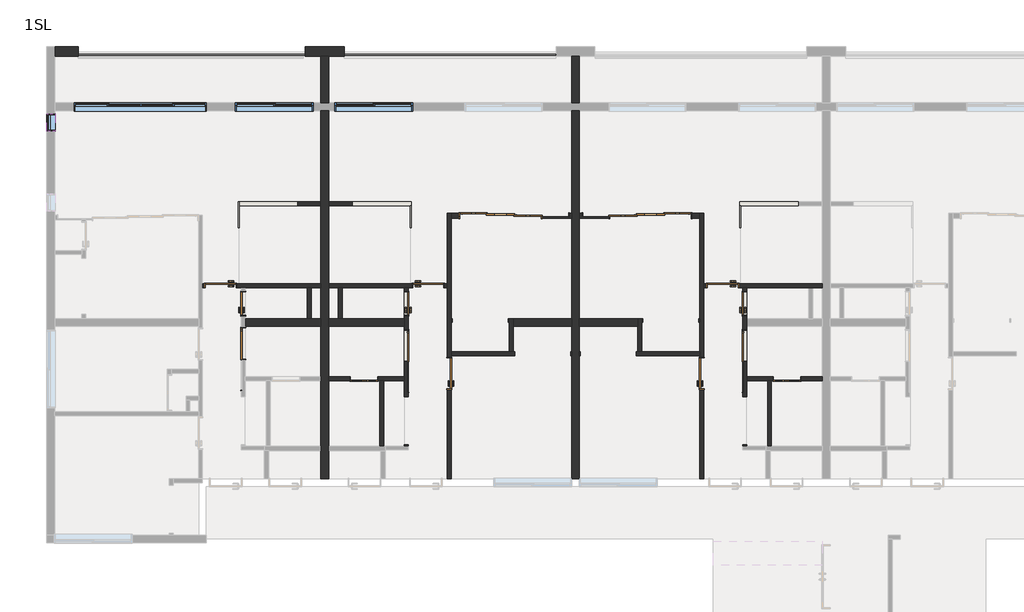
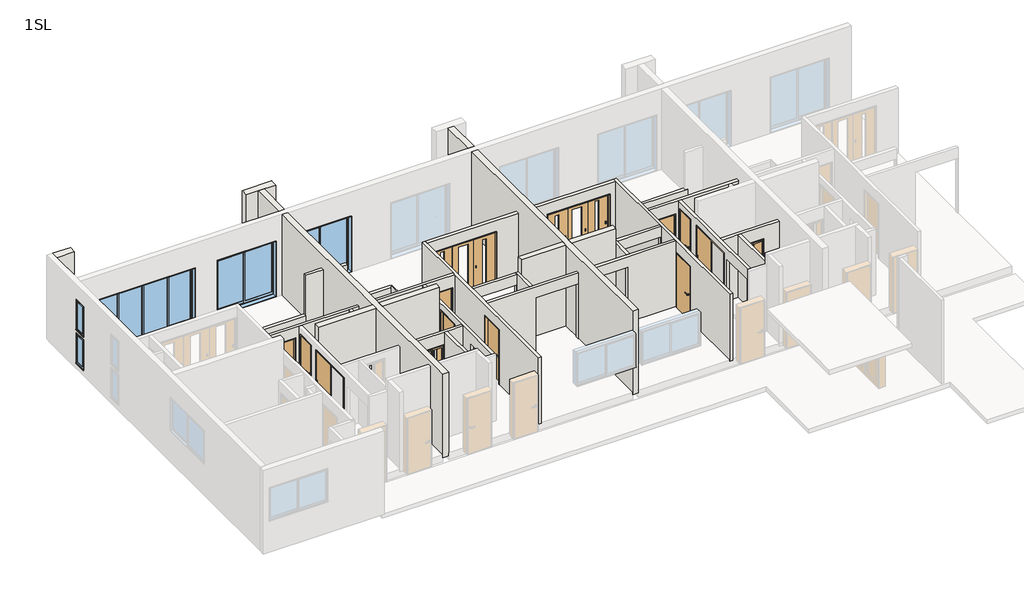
# One storey, part 2 of 3: 35 walls, 15 doors, 5 windows, 2 plates.
"""IFC4 building model written with IfcOpenShell, lengths in millimetres."""

from ifc_helpers import new_model, si_unit, frame, origin, place, context, project, spatial, polyline, outline, extrude, faceted_brep, transform, mapped, element, save
from components import door_a3db7c72, door_c7dcdbed, door_8f2de950, door_3b96e66a, door_6eb1cc95, door_aabc7979, door_3f60c47c, door_12b42705, door_31a51f76, door_d265da5f, system_panel_37aab131, system_panel_5692cc67, window_4c3e1407, window_a2a98c4b, window_ec430ee0, window_7edd47ae, w0450_h1100_93ba837a

model = new_model("IFC4")

# Units and contexts
model_context = context("Model", 3, world=origin())
ifc_project = project(units=[si_unit("LENGTHUNIT", "METRE", prefix="MILLI")], contexts=[model_context])

# Site, building, storey
site = spatial("IfcSite", under=ifc_project)
building = spatial("IfcBuilding", under=site)
storey = spatial("IfcBuildingStorey", under=building, Name="1SL", Elevation=1000.0)

# Doors
placement = place(None, origin())
door_shape = door_a3db7c72(model_context)
element("IfcDoor", 1, ObjectType="木製_片開き_フラッシュ : WD-2 w600h2000", at=placement, inside=storey, context=model_context, shape_type="MappedRepresentation", body=[
    mapped(door_shape, transform((-5645.6194095, 3696.254513, 1210.0), x_axis=(0.0, 1.0, 0.0), y_axis=(-1.0, 0.0, 0.0), z_axis=(0.0, 0.0, 1.0))),
])
element("IfcDoor", 2, ObjectType="木製_片開き_フラッシュ : WD-2 w600h2000", at=placement, inside=storey, context=model_context, shape_type="MappedRepresentation", body=[
    mapped(door_shape, transform((7254.3805905, 3696.254513, 1210.0), x_axis=(0.0, 1.0, 0.0), y_axis=(-1.0, 0.0, 0.0), z_axis=(0.0, 0.0, 1.0))),
])
door_2_shape = door_c7dcdbed(model_context)
element("IfcDoor", 3, ObjectType="木製_片開き_フラッシュ : WD-2 w600h2000", at=placement, inside=storey, context=model_context, shape_type="MappedRepresentation", body=[
    mapped(door_2_shape, transform((-1445.6194095, 3696.254513, 1210.0), x_axis=(0.0, 1.0, 0.0), y_axis=(-1.0, 0.0, 0.0), z_axis=(0.0, 0.0, 1.0))),
])
door_3_shape = door_8f2de950(model_context)
element("IfcDoor", 4, ObjectType="木製_片開き_フラッシュ : WD-1\u3000w800h2000", at=placement, inside=storey, context=model_context, shape_type="MappedRepresentation", body=[
    mapped(door_3_shape, transform((-6225.6194095, 4160.2598658, 1060.0), x_axis=(-1.0, 0.0, 0.0), y_axis=(0.0, -1.0, 0.0), z_axis=(0.0, 0.0, 1.0))),
])
element("IfcDoor", 5, ObjectType="木製_片開き_フラッシュ : WD-1\u3000w800h2000", at=placement, inside=storey, context=model_context, shape_type="MappedRepresentation", body=[
    mapped(door_3_shape, transform((-345.6194095, 1900.2598658, 1060.0), x_axis=(0.0, 1.0, 0.0), y_axis=(-1.0, 0.0, 0.0), z_axis=(0.0, 0.0, 1.0))),
])
element("IfcDoor", 6, ObjectType="木製_片開き_フラッシュ : WD-1\u3000w800h2000", at=placement, inside=storey, context=model_context, shape_type="MappedRepresentation", body=[
    mapped(door_3_shape, transform((6694.3805905, 4160.2598658, 1000.0), x_axis=(-1.0, 0.0, 0.0), y_axis=(0.0, -1.0, 0.0), z_axis=(0.0, 0.0, 1.0))),
])
door_4_shape = door_3b96e66a(model_context)
element("IfcDoor", 7, ObjectType="木製_片開き_フラッシュ : WD-1\u3000w800h2000", at=placement, inside=storey, context=model_context, shape_type="MappedRepresentation", body=[
    mapped(door_4_shape, transform((-885.6194095, 4160.2598658, 1000.0), x_axis=(1.0, 0.0, 0.0), y_axis=(0.0, 1.0, 0.0), z_axis=(0.0, 0.0, 1.0))),
])
element("IfcDoor", 8, ObjectType="木製_片開き_フラッシュ : WD-1\u3000w800h2000", at=placement, inside=storey, context=model_context, shape_type="MappedRepresentation", body=[
    mapped(door_4_shape, transform((6154.3805905, 1900.2598658, 1060.0), x_axis=(0.0, 1.0, 0.0), y_axis=(-1.0, 0.0, 0.0), z_axis=(0.0, 0.0, 1.0))),
])
door_5_shape = door_6eb1cc95(model_context)
element("IfcDoor", 9, ObjectType="木製_折戸2枚_フラッシュ(UB) : UB-1 w600h2000", at=placement, inside=storey, context=model_context, shape_type="MappedRepresentation", body=[
    mapped(door_5_shape, transform((8344.3805905, 1760.2598658, 1000.0), x_axis=(1.0, 0.0, 0.0), y_axis=(0.0, 1.0, 0.0), z_axis=(0.0, 0.0, 1.0))),
])
door_6_shape = door_aabc7979(model_context)
element("IfcDoor", 10, ObjectType="木製_折戸2枚_フラッシュ(UB) : UB-1 w600h2000", at=placement, inside=storey, context=model_context, shape_type="MappedRepresentation", body=[
    mapped(door_6_shape, transform((-2535.6194095, 1760.2598658, 1000.0), x_axis=(-1.0, 0.0, 0.0), y_axis=(0.0, -1.0, 0.0), z_axis=(0.0, 0.0, 1.0))),
])
door_7_shape = door_3f60c47c(model_context)
element("IfcDoor", 11, ObjectType="木製_片引き_フラッシュ : WD-4 w800h2000", at=placement, inside=storey, context=model_context, shape_type="MappedRepresentation", body=[
    mapped(door_7_shape, transform((-1445.6194095, 2610.719009, 1210.0), x_axis=(0.0, -1.0, 0.0), y_axis=(1.0, 0.0, 0.0), z_axis=(0.0, 0.0, 1.0))),
])
door_8_shape = door_12b42705(model_context)
element("IfcDoor", 12, ObjectType="木製_片引き_フラッシュ : WD-4 w800h2000", at=placement, inside=storey, context=model_context, shape_type="MappedRepresentation", body=[
    mapped(door_8_shape, transform((-5645.6194095, 2664.7243619, 1210.0), x_axis=(0.0, -1.0, 0.0), y_axis=(1.0, 0.0, 0.0), z_axis=(0.0, 0.0, 1.0))),
])
element("IfcDoor", 13, ObjectType="木製_片引き_フラッシュ : WD-4 w800h2000", at=placement, inside=storey, context=model_context, shape_type="MappedRepresentation", body=[
    mapped(door_8_shape, transform((7254.3805905, 2610.719009, 1210.0), x_axis=(0.0, -1.0, 0.0), y_axis=(1.0, 0.0, 0.0), z_axis=(0.0, 0.0, 1.0))),
])
door_9_shape = door_31a51f76(model_context)
element("IfcDoor", 14, ObjectType="木製_片引き3枚_フラッシュ2 : WD-9 w2100h2000", at=placement, inside=storey, context=model_context, shape_type="MappedRepresentation", body=[
    mapped(door_9_shape, transform((979.9160944, 5960.2598658, 1060.0), x_axis=(1.0, 0.0, 0.0), y_axis=(0.0, 1.0, 0.0), z_axis=(0.0, 0.0, 1.0))),
])
door_10_shape = door_d265da5f(model_context)
element("IfcDoor", 15, ObjectType="木製_片引き3枚_フラッシュ2 : WD-9 w2100h2000", at=placement, inside=storey, context=model_context, shape_type="MappedRepresentation", body=[
    mapped(door_10_shape, transform((4828.8450865, 5960.2598658, 1060.0), x_axis=(-1.0, 0.0, 0.0), y_axis=(0.0, -1.0, 0.0), z_axis=(0.0, 0.0, 1.0))),
])

# Plates
system_panel_shape = system_panel_37aab131(model_context)
element("IfcPlate", 16, ObjectType="システム パネル : System Panel", at=placement, inside=storey, context=model_context, shape_type="MappedRepresentation", body=[
    mapped(system_panel_shape, transform((-320.6194095, 10097.7598658, 1000.0), x_axis=(-1.0, 0.0, 0.0), y_axis=(0.0, -1.0, 0.0), z_axis=(0.0, 0.0, 1.0))),
])
system_panel_2_shape = system_panel_5692cc67(model_context)
element("IfcPlate", 17, ObjectType="システム パネル : System Panel", at=placement, inside=storey, context=model_context, shape_type="MappedRepresentation", body=[
    mapped(system_panel_2_shape, transform((-6970.6194095, 10097.7598658, 1000.0), x_axis=(1.0, 0.0, 0.0), y_axis=(0.0, 1.0, 0.0), z_axis=(0.0, 0.0, 1.0))),
])

# Walls
element("IfcWall", 18, ObjectType="(F)30", at=placement, inside=storey, context=model_context, shape_type="Brep", body=[
    faceted_brep([(-5775.1194095, 6315.254513, 1113.4303939), (-5775.1194095, 5645.254513, 1113.4303939), (-5775.1194095, 5645.254513, 2060.0), (-5775.1194095, 6315.254513, 2060.0), (-5745.1194095, 6315.254513, 1113.4303939), (-5745.1194095, 6315.254513, 2060.0), (-5745.1194095, 6215.254513, 2060.0), (-5745.1194095, 5645.254513, 2060.0), (-5745.1194095, 5645.254513, 1113.4303939)], [[[0, 1, 2, 3]], [[4, 5, 6, 7, 8]], [[1, 0, 4, 8]], [[2, 1, 8, 7]], [[3, 2, 7, 6, 5]], [[0, 3, 5, 4]]]),
])
element("IfcWall", 19, ObjectType="(F)30", at=placement, inside=storey, context=model_context, shape_type="Brep", body=[
    faceted_brep([(-1346.1194095, 6215.254513, 1060.0), (-1346.1194095, 5645.254513, 1060.0), (-1346.1194095, 5645.254513, 2120.0), (-1346.1194095, 6215.254513, 2120.0), (-1316.1194095, 6215.254513, 1060.0), (-1316.1194095, 6215.254513, 2060.0), (-1316.1194095, 6215.254513, 2120.0), (-1316.1194095, 5645.254513, 2120.0), (-1316.1194095, 5645.254513, 1060.0)], [[[0, 1, 2, 3]], [[4, 5, 6, 7, 8]], [[1, 0, 4, 8]], [[2, 1, 8, 7]], [[3, 2, 7, 6]], [[0, 3, 6, 5, 4]]]),
])
element("IfcWall", 20, ObjectType="(F)30", at=placement, inside=storey, context=model_context, shape_type="Brep", body=[
    faceted_brep([(7124.8805905, 6215.254513, 1060.0), (7124.8805905, 5645.254513, 1060.0), (7124.8805905, 5645.254513, 2120.0), (7124.8805905, 6215.254513, 2120.0), (7124.8805905, 6215.254513, 2060.0), (7154.8805905, 6215.254513, 1060.0), (7154.8805905, 6215.254513, 2120.0), (7154.8805905, 5645.254513, 2120.0), (7154.8805905, 5645.254513, 1060.0)], [[[0, 1, 2, 3, 4]], [[5, 6, 7, 8]], [[1, 0, 5, 8]], [[2, 1, 8, 7]], [[3, 2, 7, 6]], [[0, 4, 3, 6, 5]]]),
])
element("IfcWall", 21, ObjectType="(L)100", at=placement, inside=storey, context=model_context, shape_type="Brep", body=[
    faceted_brep([(-4245.6194095, 6315.254513, 1000.0), (-5745.1194095, 6315.254513, 1000.0), (-5745.1194095, 6315.254513, 1113.4303939), (-5745.1194095, 6315.254513, 2060.0), (-4245.6194095, 6315.254513, 2060.0), (-4245.6194095, 6315.254513, 1100.0), (-4245.6194095, 6215.254513, 1000.0), (-4245.6194095, 6215.254513, 1100.0), (-4245.6194095, 6215.254513, 2060.0), (-5745.1194095, 6215.254513, 2060.0), (-5745.1194095, 6215.254513, 1000.0)], [[[0, 1, 2, 3, 4, 5]], [[6, 7, 8, 9, 10]], [[1, 0, 6, 10]], [[4, 3, 9, 8]], [[0, 5, 4, 8, 7, 6]], [[3, 2, 1, 10, 9]]]),
])
element("IfcWall", 22, ObjectType="(L)100", at=placement, inside=storey, context=model_context, shape_type="SweptSolid", body=[
    extrude(outline(polyline([(-3995.6194095, 3310.2598658), (-3995.6194095, 4110.2598658), (-3895.6194095, 4110.2598658), (-3895.6194095, 3310.2598658), (-3995.6194095, 3310.2598658)])), frame((0.0, 0.0, 1000.0), z_axis=(0.0, 0.0, 1.0), x_axis=(1.0, 0.0, 0.0)), (0.0, 0.0, 1.0), 2460.0),
])
element("IfcWall", 23, ObjectType="(L)100", at=placement, inside=storey, context=model_context, shape_type="Brep", body=[
    faceted_brep([(-3645.6194095, 4210.2598658, 1060.0), (-5805.6194095, 4210.2598658, 1060.0), (-5805.6194095, 4210.2598658, 3080.0), (-6645.6194095, 4210.2598658, 3080.0), (-6645.6194095, 4210.2598658, 1060.0), (-6695.6194095, 4210.2598658, 1060.0), (-6695.6194095, 4210.2598658, 3460.0), (-3645.6194095, 4210.2598658, 3460.0), (-5805.6194095, 4110.2598658, 3080.0), (-5805.6194095, 4110.2598658, 1060.0), (-5695.6194095, 4110.2598658, 1060.0), (-5595.6194095, 4110.2598658, 1060.0), (-3645.6194095, 4110.2598658, 1060.0), (-3645.6194095, 4110.2598658, 3460.0), (-3895.6194095, 4110.2598658, 3460.0), (-3995.6194095, 4110.2598658, 3460.0), (-5595.6194095, 4110.2598658, 3460.0), (-5695.6194095, 4110.2598658, 3460.0), (-6695.6194095, 4110.2598658, 3460.0), (-6695.6194095, 4110.2598658, 1060.0), (-6645.6194095, 4110.2598658, 1060.0), (-6645.6194095, 4110.2598658, 3080.0)], [[[0, 1, 2, 3, 4, 5, 6, 7]], [[8, 9, 10, 11, 12, 13, 14, 15, 16, 17, 18, 19, 20, 21]], [[12, 11, 10, 9, 1, 0]], [[20, 19, 5, 4]], [[7, 6, 18, 17, 16, 15, 14, 13]], [[6, 5, 19, 18]], [[0, 7, 13, 12]], [[4, 3, 21, 20]], [[2, 1, 9, 8]], [[3, 2, 8, 21]]]),
])
element("IfcWall", 24, ObjectType="(L)100", at=placement, inside=storey, context=model_context, shape_type="Brep", body=[
    faceted_brep([(-395.6194095, 1480.2598658, 3080.0), (-395.6194095, 1480.2598658, 1060.0), (-395.6194095, -809.7401342, 1060.0), (-395.6194095, -809.7401342, 3460.0), (-395.6194095, 4110.2598658, 3460.0), (-395.6194095, 4210.2598658, 3460.0), (-395.6194095, 6022.7598658, 3460.0), (-395.6194095, 6022.7598658, 1060.0), (-395.6194095, 2320.2598658, 1060.0), (-395.6194095, 2320.2598658, 3080.0), (-295.6194095, -809.7401342, 1060.0), (-295.6194095, 1480.2598658, 1060.0), (-295.6194095, 1480.2598658, 3080.0), (-295.6194095, 2320.2598658, 3080.0), (-295.6194095, 2320.2598658, 1060.0), (-295.6194095, 2360.2598658, 1060.0), (-295.6194095, 2460.2598658, 1060.0), (-295.6194095, 5897.7598658, 1060.0), (-295.6194095, 6022.7598658, 1060.0), (-295.6194095, 6022.7598658, 3460.0), (-295.6194095, 5897.7598658, 3460.0), (-295.6194095, 3310.2598658, 3460.0), (-295.6194095, 3210.2598658, 3460.0), (-295.6194095, 2460.2598658, 3460.0), (-295.6194095, 2360.2598658, 3460.0), (-295.6194095, -809.7401342, 3460.0)], [[[0, 1, 2, 3, 4, 5, 6, 7, 8, 9]], [[10, 11, 12, 13, 14, 15, 16, 17, 18, 19, 20, 21, 22, 23, 24, 25]], [[2, 1, 11, 10]], [[8, 7, 18, 17, 16, 15, 14]], [[6, 5, 4, 3, 25, 24, 23, 22, 21, 20, 19]], [[7, 6, 19, 18]], [[3, 2, 10, 25]], [[14, 13, 9, 8]], [[12, 11, 1, 0]], [[13, 12, 0, 9]]]),
])
element("IfcWall", 25, ObjectType="(L)100", at=placement, inside=storey, context=model_context, shape_type="Brep", body=[
    faceted_brep([(2804.3805905, 2460.2598658, 1060.0), (2784.3805905, 2460.2598658, 1060.0), (2784.3805905, 2460.2598658, 3080.0), (1344.3805905, 2460.2598658, 3080.0), (1344.3805905, 2460.2598658, 1060.0), (-295.6194095, 2460.2598658, 1060.0), (-295.6194095, 2460.2598658, 3460.0), (1204.3805905, 2460.2598658, 3460.0), (1304.3805905, 2460.2598658, 3460.0), (2804.3805905, 2460.2598658, 3460.0), (2784.3805905, 2360.2598658, 3080.0), (2784.3805905, 2360.2598658, 1060.0), (2804.3805905, 2360.2598658, 1060.0), (2804.3805905, 2360.2598658, 3460.0), (-295.6194095, 2360.2598658, 3460.0), (-295.6194095, 2360.2598658, 1060.0), (1344.3805905, 2360.2598658, 1060.0), (1344.3805905, 2360.2598658, 3080.0)], [[[0, 1, 2, 3, 4, 5, 6, 7, 8, 9]], [[10, 11, 12, 13, 14, 15, 16, 17]], [[12, 11, 1, 0]], [[16, 15, 5, 4]], [[9, 8, 7, 6, 14, 13]], [[6, 5, 15, 14]], [[0, 9, 13, 12]], [[4, 3, 17, 16]], [[2, 1, 11, 10]], [[3, 2, 10, 17]]]),
])
element("IfcWall", 26, ObjectType="(L)100", at=placement, inside=storey, context=model_context, shape_type="Brep", body=[
    faceted_brep([(1204.3805905, 3310.2598658, 1000.0), (1204.3805905, 3210.2598658, 1000.0), (1204.3805905, 2460.2598658, 1000.0), (1204.3805905, 2460.2598658, 3460.0), (1204.3805905, 3210.2598658, 3460.0), (1204.3805905, 3310.2598658, 3460.0), (1304.3805905, 3310.2598658, 1000.0), (1304.3805905, 3310.2598658, 3460.0), (1304.3805905, 2460.2598658, 3460.0), (1304.3805905, 2460.2598658, 1000.0), (1304.3805905, 3110.2598658, 1000.0)], [[[0, 1, 2, 3, 4, 5]], [[6, 7, 8, 9, 10]], [[2, 1, 0, 6, 10, 9]], [[5, 4, 3, 8, 7]], [[0, 5, 7, 6]], [[3, 2, 9, 8]]]),
])
element("IfcWall", 27, ObjectType="(L)100", at=placement, inside=storey, context=model_context, shape_type="Brep", body=[
    faceted_brep([(-1395.6194095, 4110.2598658, 3460.0), (-1395.6194095, 30.2598658, 3460.0), (-1395.6194095, 30.2598658, 1060.0), (-1395.6194095, 60.2598658, 1060.0), (-1395.6194095, 60.2598658, 3080.0), (-1395.6194095, 1300.2598658, 3080.0), (-1395.6194095, 1300.2598658, 1060.0), (-1395.6194095, 4110.2598658, 1060.0), (-1395.6194095, 1396.254513, 3230.0), (-1395.6194095, 3036.254513, 3230.0), (-1395.6194095, 3036.254513, 1210.0), (-1395.6194095, 1396.254513, 1210.0), (-1395.6194095, 4016.254513, 3230.0), (-1395.6194095, 4016.254513, 1210.0), (-1395.6194095, 3376.254513, 1210.0), (-1395.6194095, 3376.254513, 3230.0), (-1495.6194095, 30.2598658, 3460.0), (-1495.6194095, 1710.2598658, 3460.0), (-1495.6194095, 1810.2598658, 3460.0), (-1495.6194095, 4110.2598658, 3460.0), (-1495.6194095, 4110.2598658, 1060.0), (-1495.6194095, 1300.2598658, 1060.0), (-1495.6194095, 1300.2598658, 3080.0), (-1495.6194095, 60.2598658, 3080.0), (-1495.6194095, 60.2598658, 1060.0), (-1495.6194095, 30.2598658, 1060.0), (-1495.6194095, 3036.254513, 3230.0), (-1495.6194095, 2196.254513, 3230.0), (-1495.6194095, 2196.254513, 1210.0), (-1495.6194095, 3036.254513, 1210.0), (-1495.6194095, 4016.254513, 1210.0), (-1495.6194095, 4016.254513, 3230.0), (-1495.6194095, 3376.254513, 3230.0), (-1495.6194095, 3376.254513, 1210.0), (-1425.6194095, 1396.254513, 3230.0), (-1425.6194095, 2196.254513, 3230.0), (-1425.6194095, 2196.254513, 1210.0), (-1425.6194095, 1396.254513, 1210.0)], [[[0, 1, 2, 3, 4, 5, 6, 7], [8, 9, 10, 11], [12, 13, 14, 15]], [[16, 17, 18, 19, 20, 21, 22, 23, 24, 25], [26, 27, 28, 29], [30, 31, 32, 33]], [[20, 7, 6, 21]], [[2, 25, 24, 3]], [[1, 0, 19, 18, 17, 16]], [[0, 7, 20, 19]], [[2, 1, 16, 25]], [[5, 22, 21, 6]], [[23, 4, 3, 24]], [[22, 5, 4, 23]], [[34, 35, 27, 26, 9, 8]], [[9, 26, 29, 10]], [[36, 37, 11, 10, 29, 28]], [[35, 36, 28, 27]], [[35, 34, 37, 36]], [[37, 34, 8, 11]], [[12, 31, 30, 13]], [[13, 30, 33, 14]], [[14, 33, 32, 15]], [[31, 12, 15, 32]]]),
])
element("IfcWall", 28, ObjectType="(L)100", at=placement, inside=storey, context=model_context, shape_type="SweptSolid", body=[
    extrude(outline(polyline([(-3445.6194095, 6315.254513), (-2845.6194095, 6315.254513), (-2845.6194095, 6215.254513), (-3445.6194095, 6215.254513), (-3445.6194095, 6315.254513)])), frame((0.0, 0.0, 1000.0), z_axis=(0.0, 0.0, 1.0), x_axis=(1.0, 0.0, 0.0)), (0.0, 0.0, 1.0), 2400.0),
])
element("IfcWall", 29, ObjectType="(L)100", at=placement, inside=storey, context=model_context, shape_type="Brep", body=[
    faceted_brep([(-2920.6194095, 6215.254513, 1060.0), (-1346.1194095, 6215.254513, 1060.0), (-1316.1194095, 6215.254513, 1060.0), (-1316.1194095, 6215.254513, 2060.0), (-2920.6194095, 6215.254513, 2060.0), (-2920.6194095, 6315.254513, 1060.0), (-2920.6194095, 6315.254513, 2060.0), (-1316.1194095, 6315.254513, 2060.0), (-1316.1194095, 6315.254513, 1060.0)], [[[0, 1, 2, 3, 4]], [[5, 6, 7, 8]], [[2, 1, 0, 5, 8]], [[4, 3, 7, 6]], [[0, 4, 6, 5]], [[3, 2, 8, 7]]]),
])
element("IfcWall", 30, ObjectType="(L)100", at=placement, inside=storey, context=model_context, shape_type="SweptSolid", body=[
    extrude(outline(polyline([(-3195.6194095, 3310.2598658), (-3195.6194095, 4110.2598658), (-3095.6194095, 4110.2598658), (-3095.6194095, 3310.2598658), (-3195.6194095, 3310.2598658)])), frame((0.0, 0.0, 1000.0), z_axis=(0.0, 0.0, 1.0), x_axis=(1.0, 0.0, 0.0)), (0.0, 0.0, 1.0), 2460.0),
])
element("IfcWall", 31, ObjectType="(L)100", at=placement, inside=storey, context=model_context, shape_type="Brep", body=[
    faceted_brep([(-2165.6194095, 1710.2598658, 3020.0), (-2165.6194095, 1710.2598658, 1000.0), (-2135.6194095, 1710.2598658, 1000.0), (-2035.6194095, 1710.2598658, 1000.0), (-1495.6194095, 1710.2598658, 1000.0), (-1495.6194095, 1710.2598658, 3460.0), (-2035.6194095, 1710.2598658, 3460.0), (-2135.6194095, 1710.2598658, 3460.0), (-3445.6194095, 1710.2598658, 3460.0), (-3445.6194095, 1710.2598658, 1000.0), (-2905.6194095, 1710.2598658, 1000.0), (-2905.6194095, 1710.2598658, 3020.0), (-1495.6194095, 1810.2598658, 1000.0), (-2165.6194095, 1810.2598658, 1000.0), (-2165.6194095, 1810.2598658, 3020.0), (-2905.6194095, 1810.2598658, 3020.0), (-2905.6194095, 1810.2598658, 1000.0), (-3445.6194095, 1810.2598658, 1000.0), (-3445.6194095, 1810.2598658, 3460.0), (-1495.6194095, 1810.2598658, 3460.0)], [[[0, 1, 2, 3, 4, 5, 6, 7, 8, 9, 10, 11]], [[12, 13, 14, 15, 16, 17, 18, 19]], [[4, 3, 2, 1, 13, 12]], [[10, 9, 17, 16]], [[8, 7, 6, 5, 19, 18]], [[5, 4, 12, 19]], [[9, 8, 18, 17]], [[16, 15, 11, 10]], [[14, 13, 1, 0]], [[15, 14, 0, 11]]]),
])
element("IfcWall", 32, ObjectType="(L)100", at=placement, inside=storey, context=model_context, shape_type="Brep", body=[
    faceted_brep([(-3445.6194095, 4110.2598658, 1000.0), (-3195.6194095, 4110.2598658, 1000.0), (-3095.6194095, 4110.2598658, 1000.0), (-1305.6194095, 4110.2598658, 1000.0), (-1305.6194095, 4110.2598658, 3020.0), (-465.6194095, 4110.2598658, 3020.0), (-465.6194095, 4110.2598658, 1000.0), (-395.6194095, 4110.2598658, 1000.0), (-395.6194095, 4110.2598658, 3460.0), (-1395.6194095, 4110.2598658, 3460.0), (-1495.6194095, 4110.2598658, 3460.0), (-3095.6194095, 4110.2598658, 3460.0), (-3195.6194095, 4110.2598658, 3460.0), (-3445.6194095, 4110.2598658, 3460.0), (-1305.6194095, 4210.2598658, 3020.0), (-1305.6194095, 4210.2598658, 1000.0), (-3445.6194095, 4210.2598658, 1000.0), (-3445.6194095, 4210.2598658, 3460.0), (-395.6194095, 4210.2598658, 3460.0), (-395.6194095, 4210.2598658, 1000.0), (-465.6194095, 4210.2598658, 1000.0), (-465.6194095, 4210.2598658, 3020.0)], [[[0, 1, 2, 3, 4, 5, 6, 7, 8, 9, 10, 11, 12, 13]], [[14, 15, 16, 17, 18, 19, 20, 21]], [[16, 15, 3, 2, 1, 0]], [[20, 19, 7, 6]], [[13, 12, 11, 10, 9, 8, 18, 17]], [[8, 7, 19, 18]], [[0, 13, 17, 16]], [[6, 5, 21, 20]], [[4, 3, 15, 14]], [[5, 4, 14, 21]]]),
])
element("IfcWall", 33, ObjectType="(L)100", at=placement, inside=storey, context=model_context, shape_type="Brep", body=[
    faceted_brep([(-4245.6194095, 6215.254513, 1100.0), (-3645.6194095, 6215.254513, 1100.0), (-3645.6194095, 6215.254513, 3500.0), (-4245.6194095, 6215.254513, 3500.0), (-4245.6194095, 6215.254513, 2060.0), (-4245.6194095, 6315.254513, 1100.0), (-4245.6194095, 6315.254513, 2060.0), (-4245.6194095, 6315.254513, 3500.0), (-3645.6194095, 6315.254513, 3500.0), (-3645.6194095, 6315.254513, 1100.0)], [[[0, 1, 2, 3, 4]], [[5, 6, 7, 8, 9]], [[1, 0, 5, 9]], [[3, 2, 8, 7]], [[0, 4, 3, 7, 6, 5]], [[2, 1, 9, 8]]]),
])
element("IfcWall", 34, ObjectType="(L)100", at=placement, inside=storey, context=model_context, shape_type="SweptSolid", body=[
    extrude(outline(polyline([(1000.0, -295.6194095), (1000.0, 1204.3805905), (3460.0, 1204.3805905), (3460.0, -295.6194095), (1000.0, -295.6194095)]), holes=[polyline([(1060.0, 1174.3805905), (1060.0, -265.6194095), (3080.0, -265.6194095), (3080.0, 1174.3805905), (1060.0, 1174.3805905)])]), frame((0.0, 3210.2598658, 0.0), z_axis=(0.0, 1.0, 0.0), x_axis=(0.0, 0.0, 1.0)), (0.0, 0.0, 1.0), 100.0),
])
element("IfcWall", 35, ObjectType="(L)100", at=placement, inside=storey, context=model_context, shape_type="SweptSolid", body=[
    extrude(outline(polyline([(-2135.6194095, 30.2598658), (-2135.6194095, 1710.2598658), (-2035.6194095, 1710.2598658), (-2035.6194095, 30.2598658), (-2135.6194095, 30.2598658)])), frame((0.0, 0.0, 1000.0), z_axis=(0.0, 0.0, 1.0), x_axis=(1.0, 0.0, 0.0)), (0.0, 0.0, 1.0), 2460.0),
])
element("IfcWall", 36, ObjectType="(L)100", at=placement, inside=storey, context=model_context, shape_type="Brep", body=[
    faceted_brep([(6104.3805905, 1480.2598658, 3080.0), (6104.3805905, 1480.2598658, 1060.0), (6104.3805905, -809.7401342, 1060.0), (6104.3805905, -809.7401342, 3460.0), (6104.3805905, 2360.2598658, 3460.0), (6104.3805905, 2460.2598658, 3460.0), (6104.3805905, 3210.2598658, 3460.0), (6104.3805905, 3310.2598658, 3460.0), (6104.3805905, 5897.7598658, 3460.0), (6104.3805905, 6022.7598658, 3460.0), (6104.3805905, 6022.7598658, 1060.0), (6104.3805905, 5897.7598658, 1060.0), (6104.3805905, 2460.2598658, 1060.0), (6104.3805905, 2360.2598658, 1060.0), (6104.3805905, 2320.2598658, 1060.0), (6104.3805905, 2320.2598658, 3080.0), (6204.3805905, -809.7401342, 1060.0), (6204.3805905, 1480.2598658, 1060.0), (6204.3805905, 1480.2598658, 3080.0), (6204.3805905, 2320.2598658, 3080.0), (6204.3805905, 2320.2598658, 1060.0), (6204.3805905, 6022.7598658, 1060.0), (6204.3805905, 6022.7598658, 3460.0), (6204.3805905, 4210.2598658, 3460.0), (6204.3805905, 4110.2598658, 3460.0), (6204.3805905, -809.7401342, 3460.0)], [[[0, 1, 2, 3, 4, 5, 6, 7, 8, 9, 10, 11, 12, 13, 14, 15]], [[16, 17, 18, 19, 20, 21, 22, 23, 24, 25]], [[2, 1, 17, 16]], [[14, 13, 12, 11, 10, 21, 20]], [[9, 8, 7, 6, 5, 4, 3, 25, 24, 23, 22]], [[10, 9, 22, 21]], [[3, 2, 16, 25]], [[20, 19, 15, 14]], [[18, 17, 1, 0]], [[19, 18, 0, 15]]]),
])
element("IfcWall", 37, ObjectType="(L)100", at=placement, inside=storey, context=model_context, shape_type="Brep", body=[
    faceted_brep([(3004.3805905, 2360.2598658, 1060.0), (3024.3805905, 2360.2598658, 1060.0), (3024.3805905, 2360.2598658, 3080.0), (4464.3805905, 2360.2598658, 3080.0), (4464.3805905, 2360.2598658, 1060.0), (6104.3805905, 2360.2598658, 1060.0), (6104.3805905, 2360.2598658, 3460.0), (3004.3805905, 2360.2598658, 3460.0), (3024.3805905, 2460.2598658, 3080.0), (3024.3805905, 2460.2598658, 1060.0), (3004.3805905, 2460.2598658, 1060.0), (3004.3805905, 2460.2598658, 3460.0), (4504.3805905, 2460.2598658, 3460.0), (4604.3805905, 2460.2598658, 3460.0), (6104.3805905, 2460.2598658, 3460.0), (6104.3805905, 2460.2598658, 1060.0), (4464.3805905, 2460.2598658, 1060.0), (4464.3805905, 2460.2598658, 3080.0)], [[[0, 1, 2, 3, 4, 5, 6, 7]], [[8, 9, 10, 11, 12, 13, 14, 15, 16, 17]], [[10, 9, 1, 0]], [[16, 15, 5, 4]], [[7, 6, 14, 13, 12, 11]], [[6, 5, 15, 14]], [[0, 7, 11, 10]], [[4, 3, 17, 16]], [[2, 1, 9, 8]], [[3, 2, 8, 17]]]),
])
element("IfcWall", 38, ObjectType="(L)100", at=placement, inside=storey, context=model_context, shape_type="Brep", body=[
    faceted_brep([(4504.3805905, 3310.2598658, 1000.0), (4504.3805905, 3110.2598658, 1000.0), (4504.3805905, 2460.2598658, 1000.0), (4504.3805905, 2460.2598658, 3460.0), (4504.3805905, 3310.2598658, 3460.0), (4604.3805905, 3310.2598658, 1000.0), (4604.3805905, 3310.2598658, 3460.0), (4604.3805905, 3210.2598658, 3460.0), (4604.3805905, 2460.2598658, 3460.0), (4604.3805905, 2460.2598658, 1000.0), (4604.3805905, 3210.2598658, 1000.0)], [[[0, 1, 2, 3, 4]], [[5, 6, 7, 8, 9, 10]], [[2, 1, 0, 5, 10, 9]], [[4, 3, 8, 7, 6]], [[0, 4, 6, 5]], [[3, 2, 9, 8]]]),
])
element("IfcWall", 39, ObjectType="(L)100", at=placement, inside=storey, context=model_context, shape_type="Brep", body=[
    faceted_brep([(7304.3805905, 4110.2598658, 3460.0), (7304.3805905, 1810.2598658, 3460.0), (7304.3805905, 1710.2598658, 3460.0), (7304.3805905, 30.2598658, 3460.0), (7304.3805905, 30.2598658, 1060.0), (7304.3805905, 60.2598658, 1060.0), (7304.3805905, 60.2598658, 3080.0), (7304.3805905, 1300.2598658, 3080.0), (7304.3805905, 1300.2598658, 1060.0), (7304.3805905, 4110.2598658, 1060.0), (7304.3805905, 2196.254513, 3230.0), (7304.3805905, 3036.254513, 3230.0), (7304.3805905, 3036.254513, 1210.0), (7304.3805905, 2196.254513, 1210.0), (7304.3805905, 4016.254513, 3230.0), (7304.3805905, 4016.254513, 1210.0), (7304.3805905, 3376.254513, 1210.0), (7304.3805905, 3376.254513, 3230.0), (7204.3805905, 30.2598658, 3460.0), (7204.3805905, 4110.2598658, 3460.0), (7204.3805905, 4110.2598658, 1060.0), (7204.3805905, 1300.2598658, 1060.0), (7204.3805905, 1300.2598658, 3080.0), (7204.3805905, 60.2598658, 3080.0), (7204.3805905, 60.2598658, 1060.0), (7204.3805905, 30.2598658, 1060.0), (7204.3805905, 3036.254513, 3230.0), (7204.3805905, 1396.254513, 3230.0), (7204.3805905, 1396.254513, 1210.0), (7204.3805905, 3036.254513, 1210.0), (7204.3805905, 4016.254513, 1210.0), (7204.3805905, 4016.254513, 3230.0), (7204.3805905, 3376.254513, 3230.0), (7204.3805905, 3376.254513, 1210.0), (7234.3805905, 2196.254513, 3230.0), (7234.3805905, 1396.254513, 3230.0), (7234.3805905, 1396.254513, 1210.0), (7234.3805905, 2196.254513, 1210.0)], [[[0, 1, 2, 3, 4, 5, 6, 7, 8, 9], [10, 11, 12, 13], [14, 15, 16, 17]], [[18, 19, 20, 21, 22, 23, 24, 25], [26, 27, 28, 29], [30, 31, 32, 33]], [[20, 9, 8, 21]], [[4, 25, 24, 5]], [[3, 2, 1, 0, 19, 18]], [[0, 9, 20, 19]], [[4, 3, 18, 25]], [[7, 22, 21, 8]], [[23, 6, 5, 24]], [[22, 7, 6, 23]], [[34, 35, 27, 26, 11, 10]], [[11, 26, 29, 12]], [[36, 37, 13, 12, 29, 28]], [[37, 34, 10, 13]], [[35, 34, 37, 36]], [[35, 36, 28, 27]], [[14, 31, 30, 15]], [[15, 30, 33, 16]], [[16, 33, 32, 17]], [[31, 14, 17, 32]]]),
])
element("IfcWall", 40, ObjectType="(L)100", at=placement, inside=storey, context=model_context, shape_type="Brep", body=[
    faceted_brep([(8729.3805905, 6315.254513, 1060.0), (7124.8805905, 6315.254513, 1060.0), (7124.8805905, 6315.254513, 2060.0), (8729.3805905, 6315.254513, 2060.0), (8729.3805905, 6215.254513, 1060.0), (8729.3805905, 6215.254513, 2060.0), (7124.8805905, 6215.254513, 2060.0), (7124.8805905, 6215.254513, 1060.0), (7154.8805905, 6215.254513, 1060.0)], [[[0, 1, 2, 3]], [[4, 5, 6, 7, 8]], [[1, 0, 4, 8, 7]], [[3, 2, 6, 5]], [[0, 3, 5, 4]], [[2, 1, 7, 6]]]),
])
element("IfcWall", 41, ObjectType="(L)100", at=placement, inside=storey, context=model_context, shape_type="Brep", body=[
    faceted_brep([(7974.3805905, 1810.2598658, 3020.0), (7974.3805905, 1810.2598658, 1000.0), (7304.3805905, 1810.2598658, 1000.0), (7304.3805905, 1810.2598658, 3460.0), (9254.3805905, 1810.2598658, 3460.0), (9254.3805905, 1810.2598658, 1000.0), (8714.3805905, 1810.2598658, 1000.0), (8714.3805905, 1810.2598658, 3020.0), (7304.3805905, 1710.2598658, 1000.0), (7844.3805905, 1710.2598658, 1000.0), (7944.3805905, 1710.2598658, 1000.0), (7974.3805905, 1710.2598658, 1000.0), (7974.3805905, 1710.2598658, 3020.0), (8714.3805905, 1710.2598658, 3020.0), (8714.3805905, 1710.2598658, 1000.0), (9254.3805905, 1710.2598658, 1000.0), (9254.3805905, 1710.2598658, 3460.0), (7944.3805905, 1710.2598658, 3460.0), (7844.3805905, 1710.2598658, 3460.0), (7304.3805905, 1710.2598658, 3460.0)], [[[0, 1, 2, 3, 4, 5, 6, 7]], [[8, 9, 10, 11, 12, 13, 14, 15, 16, 17, 18, 19]], [[2, 1, 11, 10, 9, 8]], [[6, 5, 15, 14]], [[4, 3, 19, 18, 17, 16]], [[5, 4, 16, 15]], [[3, 2, 8, 19]], [[14, 13, 7, 6]], [[12, 11, 1, 0]], [[13, 12, 0, 7]]]),
])
element("IfcWall", 42, ObjectType="(L)100", at=placement, inside=storey, context=model_context, shape_type="Brep", body=[
    faceted_brep([(9254.3805905, 4210.2598658, 1000.0), (7114.3805905, 4210.2598658, 1000.0), (7114.3805905, 4210.2598658, 3020.0), (6274.3805905, 4210.2598658, 3020.0), (6274.3805905, 4210.2598658, 1000.0), (6204.3805905, 4210.2598658, 1000.0), (6204.3805905, 4210.2598658, 3460.0), (9254.3805905, 4210.2598658, 3460.0), (7114.3805905, 4110.2598658, 3020.0), (7114.3805905, 4110.2598658, 1000.0), (8904.3805905, 4110.2598658, 1000.0), (9004.3805905, 4110.2598658, 1000.0), (9254.3805905, 4110.2598658, 1000.0), (9254.3805905, 4110.2598658, 3460.0), (9004.3805905, 4110.2598658, 3460.0), (8904.3805905, 4110.2598658, 3460.0), (7304.3805905, 4110.2598658, 3460.0), (7204.3805905, 4110.2598658, 3460.0), (6204.3805905, 4110.2598658, 3460.0), (6204.3805905, 4110.2598658, 1000.0), (6274.3805905, 4110.2598658, 1000.0), (6274.3805905, 4110.2598658, 3020.0)], [[[0, 1, 2, 3, 4, 5, 6, 7]], [[8, 9, 10, 11, 12, 13, 14, 15, 16, 17, 18, 19, 20, 21]], [[12, 11, 10, 9, 1, 0]], [[20, 19, 5, 4]], [[7, 6, 18, 17, 16, 15, 14, 13]], [[0, 7, 13, 12]], [[6, 5, 19, 18]], [[4, 3, 21, 20]], [[2, 1, 9, 8]], [[3, 2, 8, 21]]]),
])
element("IfcWall", 43, ObjectType="(L)100", at=placement, inside=storey, context=model_context, shape_type="SweptSolid", body=[
    extrude(outline(polyline([(1000.0, 4604.3805905), (1000.0, 6104.3805905), (3460.0, 6104.3805905), (3460.0, 4604.3805905), (1000.0, 4604.3805905)]), holes=[polyline([(1060.0, 6074.3805905), (1060.0, 4634.3805905), (3080.0, 4634.3805905), (3080.0, 6074.3805905), (1060.0, 6074.3805905)])]), frame((0.0, 3210.2598658, 0.0), z_axis=(0.0, 1.0, 0.0), x_axis=(0.0, 0.0, 1.0)), (0.0, 0.0, 1.0), 100.0),
])
element("IfcWall", 44, ObjectType="(L)100", at=placement, inside=storey, context=model_context, shape_type="SweptSolid", body=[
    extrude(outline(polyline([(7844.3805905, 30.2598658), (7844.3805905, 1710.2598658), (7944.3805905, 1710.2598658), (7944.3805905, 30.2598658), (7844.3805905, 30.2598658)])), frame((0.0, 0.0, 1000.0), z_axis=(0.0, 0.0, 1.0), x_axis=(1.0, 0.0, 0.0)), (0.0, 0.0, 1.0), 2460.0),
])
element("IfcWall", 45, ObjectType="(L1)125", at=placement, inside=storey, context=model_context, shape_type="Brep", body=[
    faceted_brep([(2804.3805905, 5897.7598658, 3460.0), (-295.6194095, 5897.7598658, 3460.0), (-295.6194095, 5897.7598658, 1060.0), (-95.6194095, 5897.7598658, 1060.0), (-95.6194095, 5897.7598658, 3080.0), (2044.3805905, 5897.7598658, 3080.0), (2044.3805905, 5897.7598658, 1060.0), (2804.3805905, 5897.7598658, 1060.0), (-295.6194095, 6022.7598658, 3460.0), (2804.3805905, 6022.7598658, 3460.0), (2804.3805905, 6022.7598658, 1060.0), (2744.3805905, 6022.7598658, 1060.0), (2744.3805905, 6022.7598658, 3080.0), (-95.6194095, 6022.7598658, 3080.0), (-95.6194095, 6022.7598658, 1060.0), (-295.6194095, 6022.7598658, 1060.0), (2044.3805905, 5932.7598658, 1060.0), (2744.3805905, 5932.7598658, 1060.0), (2744.3805905, 5932.7598658, 3080.0), (2044.3805905, 5932.7598658, 3080.0)], [[[0, 1, 2, 3, 4, 5, 6, 7]], [[8, 9, 10, 11, 12, 13, 14, 15]], [[2, 15, 14, 3]], [[10, 7, 6, 16, 17, 11]], [[1, 0, 9, 8]], [[2, 1, 8, 15]], [[0, 7, 10, 9]], [[18, 19, 5, 4, 13, 12]], [[13, 4, 3, 14]], [[19, 16, 6, 5]], [[19, 18, 17, 16]], [[17, 18, 12, 11]]]),
])
element("IfcWall", 46, ObjectType="(L1)125", at=placement, inside=storey, context=model_context, shape_type="Brep", body=[
    faceted_brep([(3004.3805905, 6022.7598658, 3460.0), (6104.3805905, 6022.7598658, 3460.0), (6104.3805905, 6022.7598658, 1060.0), (5904.3805905, 6022.7598658, 1060.0), (5904.3805905, 6022.7598658, 3080.0), (3064.3805905, 6022.7598658, 3080.0), (3064.3805905, 6022.7598658, 1060.0), (3004.3805905, 6022.7598658, 1060.0), (6104.3805905, 5897.7598658, 3460.0), (3004.3805905, 5897.7598658, 3460.0), (3004.3805905, 5897.7598658, 1060.0), (3764.3805905, 5897.7598658, 1060.0), (3764.3805905, 5897.7598658, 3080.0), (5904.3805905, 5897.7598658, 3080.0), (5904.3805905, 5897.7598658, 1060.0), (6104.3805905, 5897.7598658, 1060.0), (3064.3805905, 5932.7598658, 1060.0), (3764.3805905, 5932.7598658, 1060.0), (3764.3805905, 5932.7598658, 3080.0), (3064.3805905, 5932.7598658, 3080.0)], [[[0, 1, 2, 3, 4, 5, 6, 7]], [[8, 9, 10, 11, 12, 13, 14, 15]], [[2, 15, 14, 3]], [[10, 7, 6, 16, 17, 11]], [[1, 0, 9, 8]], [[2, 1, 8, 15]], [[0, 7, 10, 9]], [[18, 19, 5, 4, 13, 12]], [[13, 4, 3, 14]], [[17, 18, 12, 11]], [[19, 18, 17, 16]], [[19, 16, 6, 5]]]),
])
element("IfcWall", 47, ObjectType="(R)200", at=placement, inside=storey, context=model_context, shape_type="Brep", body=[
    faceted_brep([(-3445.6194095, -809.7401342, 4000.0), (-3445.6194095, -809.7401342, 1000.0), (-3445.6194095, -89.7401342, 1000.0), (-3445.6194095, 30.2598658, 1000.0), (-3445.6194095, 1710.2598658, 1000.0), (-3445.6194095, 1810.2598658, 1000.0), (-3445.6194095, 3110.2598658, 1000.0), (-3445.6194095, 3310.2598658, 1000.0), (-3445.6194095, 4110.2598658, 1000.0), (-3445.6194095, 4210.2598658, 1000.0), (-3445.6194095, 6215.254513, 1000.0), (-3445.6194095, 6315.254513, 1000.0), (-3445.6194095, 8660.2598658, 1000.0), (-3445.6194095, 8660.2598658, 4000.0), (-3445.6194095, 3310.2598658, 4000.0), (-3445.6194095, 3110.2598658, 4000.0), (-3645.6194095, -809.7401342, 1000.0), (-3645.6194095, -809.7401342, 4000.0), (-3645.6194095, 3110.2598658, 4000.0), (-3645.6194095, 3310.2598658, 4000.0), (-3645.6194095, 8660.2598658, 4000.0), (-3645.6194095, 8660.2598658, 1000.0), (-3645.6194095, 3310.2598658, 1000.0), (-3645.6194095, 3110.2598658, 1000.0), (-3645.6194095, 30.2598658, 1000.0), (-3645.6194095, -89.7401342, 1000.0)], [[[0, 1, 2, 3, 4, 5, 6, 7, 8, 9, 10, 11, 12, 13, 14, 15]], [[16, 17, 18, 19, 20, 21, 22, 23, 24, 25]], [[1, 16, 25, 24, 23, 22, 21, 12, 11, 10, 9, 8, 7, 6, 5, 4, 3, 2]], [[17, 0, 15, 14, 13, 20, 19, 18]], [[1, 0, 17, 16]], [[13, 12, 21, 20]]]),
    faceted_brep([(-3445.6194095, 8860.2598658, 4000.0), (-3445.6194095, 8860.2598658, 1000.0), (-3445.6194095, 10059.9866207, 1000.0), (-3445.6194095, 10059.9866207, 4000.0), (-3645.6194095, 8860.2598658, 1000.0), (-3645.6194095, 8860.2598658, 4000.0), (-3645.6194095, 10059.9866207, 4000.0), (-3645.6194095, 10059.9866207, 1000.0)], [[[0, 1, 2, 3]], [[4, 5, 6, 7]], [[1, 4, 7, 2]], [[5, 0, 3, 6]], [[1, 0, 5, 4]], [[3, 2, 7, 6]]]),
])
element("IfcWall", 48, ObjectType="(R)200", at=placement, inside=storey, context=model_context, shape_type="Brep", body=[
    faceted_brep([(3004.3805905, -809.7401342, 4000.0), (3004.3805905, -809.7401342, 3320.0), (3004.3805905, -809.7401342, 2120.0), (3004.3805905, -809.7401342, 1000.0), (3004.3805905, 3110.2598658, 1000.0), (3004.3805905, 3310.2598658, 1000.0), (3004.3805905, 8660.2598658, 1000.0), (3004.3805905, 8660.2598658, 4000.0), (3004.3805905, 3310.2598658, 4000.0), (3004.3805905, 3110.2598658, 4000.0), (2804.3805905, -809.7401342, 1000.0), (2804.3805905, -809.7401342, 2120.0), (2804.3805905, -809.7401342, 3320.0), (2804.3805905, -809.7401342, 4000.0), (2804.3805905, 3110.2598658, 4000.0), (2804.3805905, 3310.2598658, 4000.0), (2804.3805905, 8660.2598658, 4000.0), (2804.3805905, 8660.2598658, 1000.0), (2804.3805905, 3310.2598658, 1000.0), (2804.3805905, 3110.2598658, 1000.0)], [[[0, 1, 2, 3, 4, 5, 6, 7, 8, 9]], [[10, 11, 12, 13, 14, 15, 16, 17, 18, 19]], [[3, 10, 19, 18, 17, 6, 5, 4]], [[13, 0, 9, 8, 7, 16, 15, 14]], [[3, 2, 1, 0, 13, 12, 11, 10]], [[7, 6, 17, 16]]]),
    faceted_brep([(3004.3805905, 8860.2598658, 4000.0), (3004.3805905, 8860.2598658, 1000.0), (3004.3805905, 10059.9866207, 1000.0), (3004.3805905, 10059.9866207, 4000.0), (2804.3805905, 8860.2598658, 1000.0), (2804.3805905, 8860.2598658, 4000.0), (2804.3805905, 10059.9866207, 4000.0), (2804.3805905, 10059.9866207, 1000.0)], [[[0, 1, 2, 3]], [[4, 5, 6, 7]], [[1, 4, 7, 2]], [[5, 0, 3, 6]], [[1, 0, 5, 4]], [[3, 2, 7, 6]]]),
])
element("IfcWall", 49, ObjectType="(R)200", at=placement, inside=storey, context=model_context, shape_type="Brep", body=[
    faceted_brep([(1304.3805905, 3110.2598658, 4000.0), (1304.3805905, 3110.2598658, 1000.0), (2804.3805905, 3110.2598658, 1000.0), (2804.3805905, 3110.2598658, 4000.0), (1304.3805905, 3310.2598658, 1000.0), (1304.3805905, 3310.2598658, 3460.0), (1304.3805905, 3310.2598658, 4000.0), (2804.3805905, 3310.2598658, 4000.0), (2804.3805905, 3310.2598658, 1000.0)], [[[0, 1, 2, 3]], [[4, 5, 6, 7, 8]], [[1, 4, 8, 2]], [[6, 0, 3, 7]], [[1, 0, 6, 5, 4]], [[3, 2, 8, 7]]]),
    faceted_brep([(4504.3805905, 3110.2598658, 1000.0), (4504.3805905, 3110.2598658, 4000.0), (3004.3805905, 3110.2598658, 4000.0), (3004.3805905, 3110.2598658, 1000.0), (4504.3805905, 3310.2598658, 4000.0), (4504.3805905, 3310.2598658, 3460.0), (4504.3805905, 3310.2598658, 1000.0), (3004.3805905, 3310.2598658, 1000.0), (3004.3805905, 3310.2598658, 4000.0)], [[[0, 1, 2, 3]], [[4, 5, 6, 7, 8]], [[6, 0, 3, 7]], [[1, 4, 8, 2]], [[1, 0, 6, 5, 4]], [[3, 2, 8, 7]]]),
])
element("IfcWall", 50, ObjectType="(R)200", at=placement, inside=storey, context=model_context, shape_type="Brep", body=[
    faceted_brep([(-5595.6194095, 3310.2598658, 1000.0), (-5595.6194095, 3310.2598658, 4000.0), (-3645.6194095, 3310.2598658, 4000.0), (-3645.6194095, 3310.2598658, 1000.0), (-3895.6194095, 3310.2598658, 1000.0), (-3995.6194095, 3310.2598658, 1000.0), (-5595.6194095, 3110.2598658, 4000.0), (-5595.6194095, 3110.2598658, 1000.0), (-3645.6194095, 3110.2598658, 1000.0), (-3645.6194095, 3110.2598658, 4000.0)], [[[0, 1, 2, 3, 4, 5]], [[6, 7, 8, 9]], [[7, 0, 5, 4, 3, 8]], [[1, 6, 9, 2]], [[1, 0, 7, 6]], [[3, 2, 9, 8]]]),
    faceted_brep([(-1495.6194095, 3310.2598658, 4000.0), (-1495.6194095, 3310.2598658, 1000.0), (-3095.6194095, 3310.2598658, 1000.0), (-3195.6194095, 3310.2598658, 1000.0), (-3445.6194095, 3310.2598658, 1000.0), (-3445.6194095, 3310.2598658, 4000.0), (-1495.6194095, 3110.2598658, 1000.0), (-1495.6194095, 3110.2598658, 4000.0), (-3445.6194095, 3110.2598658, 4000.0), (-3445.6194095, 3110.2598658, 1000.0)], [[[0, 1, 2, 3, 4, 5]], [[6, 7, 8, 9]], [[1, 6, 9, 4, 3, 2]], [[7, 0, 5, 8]], [[1, 0, 7, 6]], [[5, 4, 9, 8]]]),
])
element("IfcWall", 51, ObjectType="(R)250", at=placement, inside=storey, context=model_context, shape_type="Brep", body=[
    faceted_brep([(-10495.6194095, 10059.9866207, 1000.0), (-9895.6194095, 10059.9866207, 1000.0), (-9895.6194095, 10059.9866207, 4000.0), (-10495.6194095, 10059.9866207, 4000.0), (-10495.6194095, 10309.9866207, 1000.0), (-10495.6194095, 10309.9866207, 4000.0), (-9895.6194095, 10309.9866207, 4000.0), (-9895.6194095, 10309.9866207, 1000.0), (-9895.6194095, 10284.9866207, 4000.0), (-9895.6194095, 10084.9866207, 4000.0)], [[[0, 1, 2, 3]], [[4, 5, 6, 7]], [[1, 0, 4, 7]], [[2, 1, 7, 6, 8, 9]], [[3, 2, 9, 8, 6, 5]], [[0, 3, 5, 4]]]),
])
element("IfcWall", 52, ObjectType="(R)250", at=placement, inside=storey, context=model_context, shape_type="Brep", body=[
    faceted_brep([(-4045.6194095, 10059.9866207, 1000.0), (-3645.6194095, 10059.9866207, 1000.0), (-3445.6194095, 10059.9866207, 1000.0), (-3045.6194095, 10059.9866207, 1000.0), (-3045.6194095, 10059.9866207, 3250.0), (-3045.6194095, 10059.9866207, 4000.0), (-3445.6194095, 10059.9866207, 4000.0), (-3645.6194095, 10059.9866207, 4000.0), (-4045.6194095, 10059.9866207, 4000.0), (-4045.6194095, 10309.9866207, 1000.0), (-4045.6194095, 10309.9866207, 4000.0), (-3045.6194095, 10309.9866207, 4000.0), (-3045.6194095, 10309.9866207, 1000.0), (-3045.6194095, 10259.9866207, 4000.0), (-4045.6194095, 10284.9866207, 4000.0), (-4045.6194095, 10084.9866207, 4000.0)], [[[0, 1, 2, 3, 4, 5, 6, 7, 8]], [[9, 10, 11, 12]], [[3, 2, 1, 0, 9, 12]], [[5, 4, 3, 12, 11, 13]], [[8, 7, 6, 5, 13, 11, 10, 14, 15]], [[0, 8, 15, 14, 10, 9]]]),
])

# Windows
window_shape = window_4c3e1407(model_context)
element("IfcWindow", 53, ObjectType="窓-開き-内付 : AW-1 w0450 h1100", at=placement, inside=storey, context=model_context, shape_type="MappedRepresentation", body=[
    mapped(window_shape, transform((-10595.6194095, 8355.2598658, 1180.0), x_axis=(0.0, 1.0, 0.0), y_axis=(-1.0, 0.0, 0.0), z_axis=(0.0, 0.0, 1.0))),
])
window_2_shape = window_a2a98c4b(model_context)
element("IfcWindow", 54, ObjectType="窓-引違掃出2枚-内付 : AW-3 w2000 h2000", at=placement, inside=storey, context=model_context, shape_type="MappedRepresentation", body=[
    mapped(window_2_shape, transform((-4845.6194095, 8760.2598658, 1120.0), x_axis=(1.0, 0.0, 0.0), y_axis=(0.0, 1.0, 0.0), z_axis=(0.0, 0.0, 1.0))),
])
window_3_shape = window_ec430ee0(model_context)
element("IfcWindow", 55, ObjectType="窓-引違掃出2枚-内付 : AW-3 w2000 h2000", at=placement, inside=storey, context=model_context, shape_type="MappedRepresentation", body=[
    mapped(window_3_shape, transform((-2285.6194095, 8760.2598658, 1120.0), x_axis=(-1.0, 0.0, 0.0), y_axis=(0.0, -1.0, 0.0), z_axis=(0.0, 0.0, 1.0))),
])
window_4_shape = window_7edd47ae(model_context)
element("IfcWindow", 56, ObjectType="窓-引違掃出4枚2溝-内付 : AW-2 w3400 h2000", at=placement, inside=storey, context=model_context, shape_type="MappedRepresentation", body=[
    mapped(window_4_shape, transform((-8294.6785744, 8760.2598658, 1120.0), x_axis=(1.0, 0.0, 0.0), y_axis=(0.0, 1.0, 0.0), z_axis=(0.0, 0.0, 1.0))),
])
w0450_h1100_shape = w0450_h1100_93ba837a(model_context)
element("IfcWindow", 57, ObjectType="窓-Fix-内付 : w0450 h1100", at=placement, inside=storey, context=model_context, shape_type="MappedRepresentation", body=[
    mapped(w0450_h1100_shape, transform((-10595.6194095, 8355.2598658, 1120.0), x_axis=(0.0, 1.0, 0.0), y_axis=(-1.0, 0.0, 0.0), z_axis=(0.0, 0.0, 1.0))),
])

save(model, "model.ifc")
